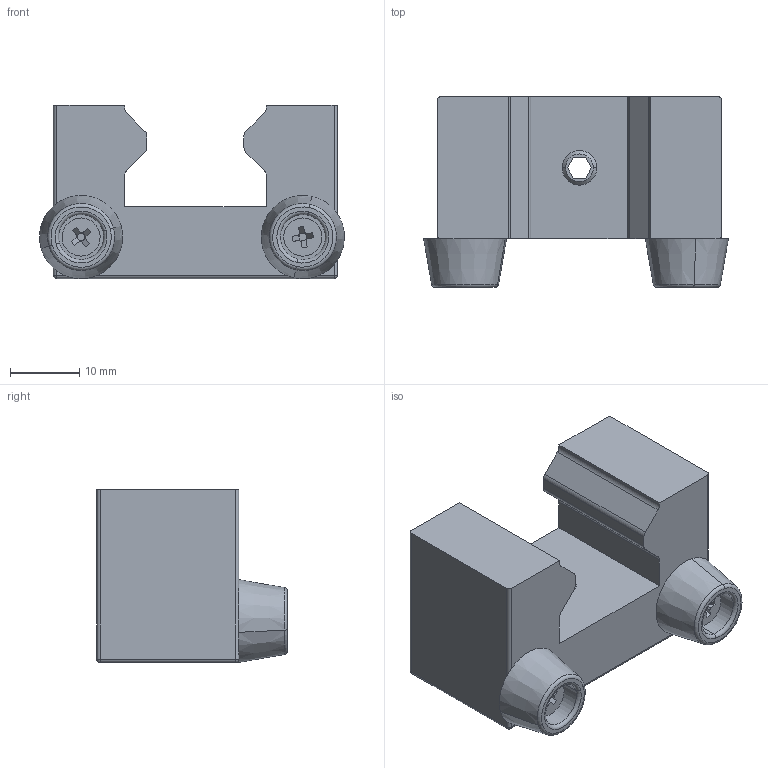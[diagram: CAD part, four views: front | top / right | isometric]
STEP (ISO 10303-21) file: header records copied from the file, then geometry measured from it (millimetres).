
FILE_DESCRIPTION (( 'STEP AP214' ), '1' );
FILE_NAME ('2.9027 HG20.STEP', '2025-09-23T07:17:52', ( '' ), ( '' ), 'SwSTEP 2.0', 'SolidWorks 2025', '' );
FILE_SCHEMA (( 'AUTOMOTIVE_DESIGN' ));
Length unit declared in the file: millimetre
Products named in the file (1): 2.9027 HG20
Bounding box: 43.98 x 27.5 x 25 mm (x, y, z)
Surface area: 6105.5 mm2 (no closed solid volume)
Topology: 0 solids, 7 shells, 156 faces, 438 edges, 292 vertices
Faces by surface type: plane 82, bspline 24, cylinder 22, cone 16, torus 8, sphere 4
Entity records: 8378 total; most frequent: CARTESIAN_POINT 2835, ORIENTED_EDGE 792, DIRECTION 732, EDGE_CURVE 434, VERTEX_POINT 292, LINE 258, VECTOR 258, AXIS2_PLACEMENT_3D 237
